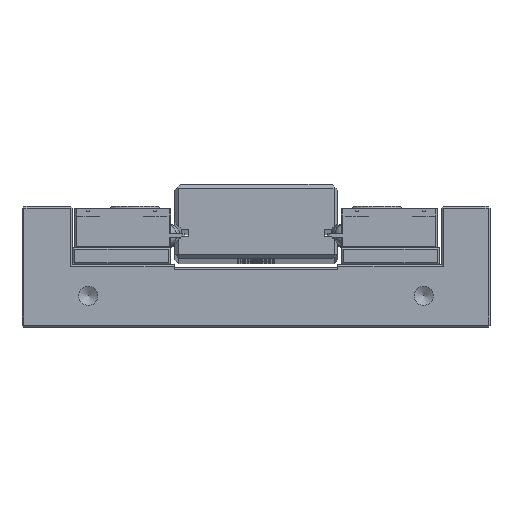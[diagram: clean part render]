
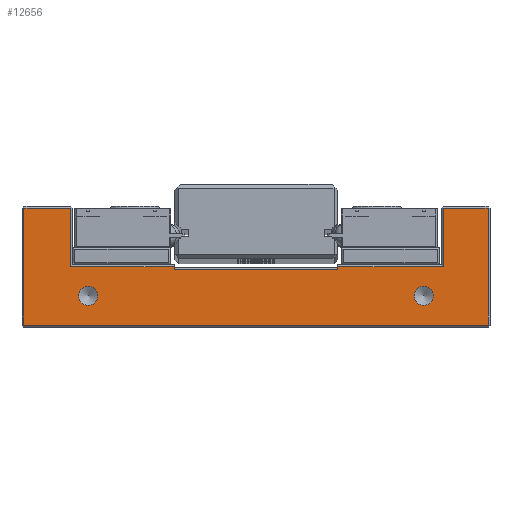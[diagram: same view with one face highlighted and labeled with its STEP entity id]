
A CAD part, top view. The second image highlights one B-rep face of the part: STEP entity #12656.
In plain terms, the highlighted planar face has unit normal (0, 0, 1).
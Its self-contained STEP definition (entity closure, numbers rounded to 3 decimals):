
#417=FACE_BOUND('',#2310,.T.);
#418=FACE_BOUND('',#2311,.T.);
#933=PLANE('',#13741);
#1550=FACE_OUTER_BOUND('',#2309,.T.);
#2309=EDGE_LOOP('',(#10630,#10631,#10632,#10633,#10634,#10635,#10636,#10637,
#10638,#10639,#10640,#10641));
#2310=EDGE_LOOP('',(#10642));
#2311=EDGE_LOOP('',(#10643));
#3313=LINE('',#20864,#4349);
#3385=LINE('',#21078,#4421);
#3414=LINE('',#21132,#4450);
#3416=LINE('',#21135,#4452);
#3418=LINE('',#21139,#4454);
#3419=LINE('',#21141,#4455);
#3421=LINE('',#21145,#4457);
#3422=LINE('',#21147,#4458);
#3425=LINE('',#21152,#4461);
#3427=LINE('',#21156,#4463);
#3429=LINE('',#21160,#4465);
#3430=LINE('',#21162,#4466);
#4349=VECTOR('',#16288,10.);
#4421=VECTOR('',#16512,10.);
#4450=VECTOR('',#16575,10.);
#4452=VECTOR('',#16579,10.);
#4454=VECTOR('',#16585,10.);
#4455=VECTOR('',#16588,10.);
#4457=VECTOR('',#16594,10.);
#4458=VECTOR('',#16597,10.);
#4461=VECTOR('',#16602,10.);
#4463=VECTOR('',#16606,10.);
#4465=VECTOR('',#16612,10.);
#4466=VECTOR('',#16615,10.);
#4921=CIRCLE('',#13742,2.459);
#4922=CIRCLE('',#13743,2.459);
#5870=VERTEX_POINT('',#20857);
#5873=VERTEX_POINT('',#20862);
#5931=VERTEX_POINT('',#21043);
#5936=VERTEX_POINT('',#21061);
#5938=VERTEX_POINT('',#21075);
#5939=VERTEX_POINT('',#21077);
#5940=VERTEX_POINT('',#21081);
#5942=VERTEX_POINT('',#21093);
#5943=VERTEX_POINT('',#21098);
#5945=VERTEX_POINT('',#21116);
#5948=VERTEX_POINT('',#21151);
#5949=VERTEX_POINT('',#21155);
#5950=VERTEX_POINT('',#21163);
#5951=VERTEX_POINT('',#21165);
#7433=EDGE_CURVE('',#5873,#5870,#3313,.T.);
#7539=EDGE_CURVE('',#5938,#5939,#3385,.T.);
#7568=EDGE_CURVE('',#5942,#5945,#3414,.T.);
#7570=EDGE_CURVE('',#5945,#5943,#3416,.T.);
#7572=EDGE_CURVE('',#5943,#5940,#3418,.T.);
#7573=EDGE_CURVE('',#5939,#5942,#3419,.T.);
#7575=EDGE_CURVE('',#5940,#5936,#3421,.T.);
#7576=EDGE_CURVE('',#5936,#5931,#3422,.T.);
#7579=EDGE_CURVE('',#5931,#5948,#3425,.T.);
#7581=EDGE_CURVE('',#5948,#5949,#3427,.T.);
#7583=EDGE_CURVE('',#5873,#5949,#3429,.T.);
#7584=EDGE_CURVE('',#5938,#5870,#3430,.T.);
#7585=EDGE_CURVE('',#5950,#5950,#4921,.T.);
#7586=EDGE_CURVE('',#5951,#5951,#4922,.T.);
#10630=ORIENTED_EDGE('',*,*,#7583,.T.);
#10631=ORIENTED_EDGE('',*,*,#7581,.F.);
#10632=ORIENTED_EDGE('',*,*,#7579,.F.);
#10633=ORIENTED_EDGE('',*,*,#7576,.F.);
#10634=ORIENTED_EDGE('',*,*,#7575,.F.);
#10635=ORIENTED_EDGE('',*,*,#7572,.F.);
#10636=ORIENTED_EDGE('',*,*,#7570,.F.);
#10637=ORIENTED_EDGE('',*,*,#7568,.F.);
#10638=ORIENTED_EDGE('',*,*,#7573,.F.);
#10639=ORIENTED_EDGE('',*,*,#7539,.F.);
#10640=ORIENTED_EDGE('',*,*,#7584,.T.);
#10641=ORIENTED_EDGE('',*,*,#7433,.F.);
#10642=ORIENTED_EDGE('',*,*,#7585,.T.);
#10643=ORIENTED_EDGE('',*,*,#7586,.T.);
#12656=ADVANCED_FACE('',(#1550,#417,#418),#933,.T.);
#13741=AXIS2_PLACEMENT_3D('',#21161,#16613,#16614);
#13742=AXIS2_PLACEMENT_3D('',#21164,#16616,#16617);
#13743=AXIS2_PLACEMENT_3D('',#21166,#16618,#16619);
#16288=DIRECTION('',(1.,0.,0.));
#16512=DIRECTION('',(1.,0.,0.));
#16575=DIRECTION('',(1.,0.,0.));
#16579=DIRECTION('',(0.,-1.,0.));
#16585=DIRECTION('',(-1.,0.,0.));
#16588=DIRECTION('',(0.,1.,0.));
#16594=DIRECTION('',(0.,1.,0.));
#16597=DIRECTION('',(1.,0.,0.));
#16602=DIRECTION('',(0.,-1.,0.));
#16606=DIRECTION('',(1.,0.,0.));
#16612=DIRECTION('',(0.,1.,0.));
#16613=DIRECTION('center_axis',(0.,0.,1.));
#16614=DIRECTION('ref_axis',(1.,0.,0.));
#16615=DIRECTION('',(0.,-1.,0.));
#16616=DIRECTION('center_axis',(0.,0.,-1.));
#16617=DIRECTION('ref_axis',(-1.,0.,0.));
#16618=DIRECTION('center_axis',(0.,0.,-1.));
#16619=DIRECTION('ref_axis',(-1.,0.,0.));
#20857=CARTESIAN_POINT('',(23.66,11.195,52.5));
#20862=CARTESIAN_POINT('',(-18.34,11.195,52.5));
#20864=CARTESIAN_POINT('',(13.16,11.195,52.5));
#21043=CARTESIAN_POINT('',(-44.84,26.995,52.5));
#21061=CARTESIAN_POINT('',(-56.84,26.995,52.5));
#21075=CARTESIAN_POINT('',(23.66,11.995,52.5));
#21077=CARTESIAN_POINT('',(50.66,11.995,52.5));
#21078=CARTESIAN_POINT('',(26.41,11.995,52.5));
#21081=CARTESIAN_POINT('',(-56.84,-3.005,52.5));
#21093=CARTESIAN_POINT('',(50.66,26.995,52.5));
#21098=CARTESIAN_POINT('',(62.16,-3.005,52.5));
#21116=CARTESIAN_POINT('',(62.16,26.995,52.5));
#21132=CARTESIAN_POINT('',(32.66,26.995,52.5));
#21135=CARTESIAN_POINT('',(62.16,4.245,52.5));
#21139=CARTESIAN_POINT('',(-27.34,-3.005,52.5));
#21141=CARTESIAN_POINT('',(50.66,19.745,52.5));
#21145=CARTESIAN_POINT('',(-56.84,19.745,52.5));
#21147=CARTESIAN_POINT('',(-20.84,26.995,52.5));
#21151=CARTESIAN_POINT('',(-44.84,11.995,52.5));
#21152=CARTESIAN_POINT('',(-44.84,12.245,52.5));
#21155=CARTESIAN_POINT('',(-18.34,11.995,52.5));
#21156=CARTESIAN_POINT('',(-7.84,11.995,52.5));
#21160=CARTESIAN_POINT('',(-18.34,11.695,52.5));
#21161=CARTESIAN_POINT('Origin',(2.66,11.995,52.5));
#21162=CARTESIAN_POINT('',(23.66,12.495,52.5));
#21163=CARTESIAN_POINT('',(-37.881,4.495,52.5));
#21164=CARTESIAN_POINT('Origin',(-40.34,4.495,52.5));
#21165=CARTESIAN_POINT('',(48.119,4.495,52.5));
#21166=CARTESIAN_POINT('Origin',(45.66,4.495,52.5));
